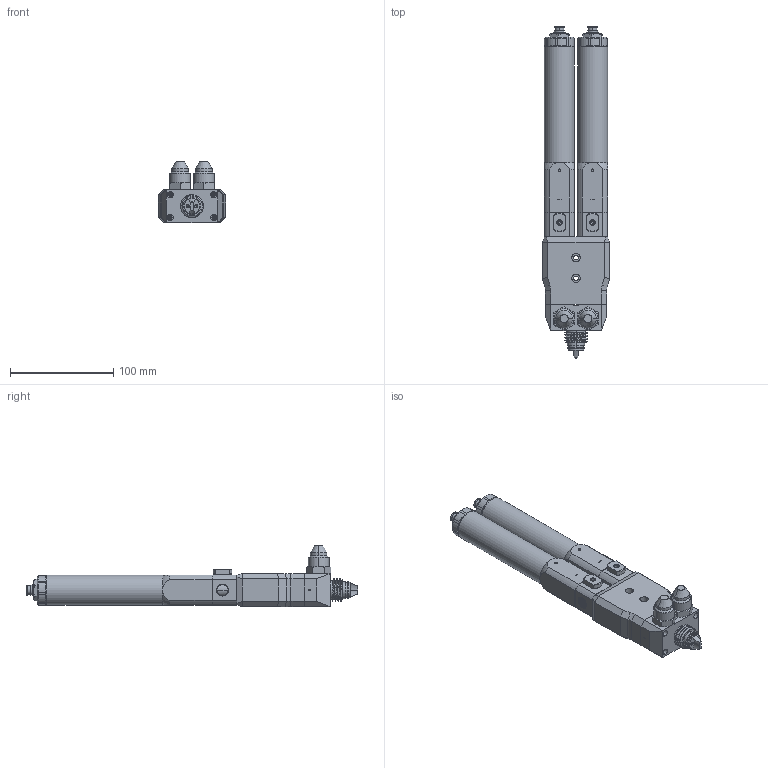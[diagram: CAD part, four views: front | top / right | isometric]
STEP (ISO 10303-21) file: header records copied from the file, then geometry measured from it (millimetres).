
FILE_DESCRIPTION (( 'STEP AP214' ), '1' );
FILE_NAME ('PDP-500CA.STEP', '2024-10-11T12:09:10', ( '' ), ( '' ), 'SwSTEP 2.0', 'SolidWorks 2024', '' );
FILE_SCHEMA (( 'AUTOMOTIVE_DESIGN' ));
Length unit declared in the file: millimetre
Products named in the file (1): PDP-500CA
Bounding box: 65 x 321 x 59.3 mm (x, y, z)
Volume: 463448.6 mm3; surface area: 104965.7 mm2
Topology: 12 solids, 12 shells, 1135 faces, 2790 edges, 1765 vertices
Faces by surface type: plane 428, cylinder 383, cone 271, bspline 33, torus 12, sphere 8
Full cylindrical faces by diameter (mm): 29 x2
Entity records: 66949 total; most frequent: CARTESIAN_POINT 40833, ORIENTED_EDGE 5528, DIRECTION 5214, EDGE_CURVE 2764, AXIS2_PLACEMENT_3D 2072, VERTEX_POINT 1765, EDGE_LOOP 1283, FACE_OUTER_BOUND 1137
